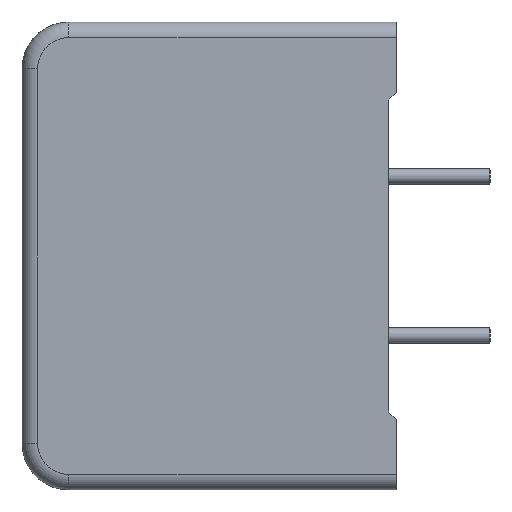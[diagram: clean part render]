
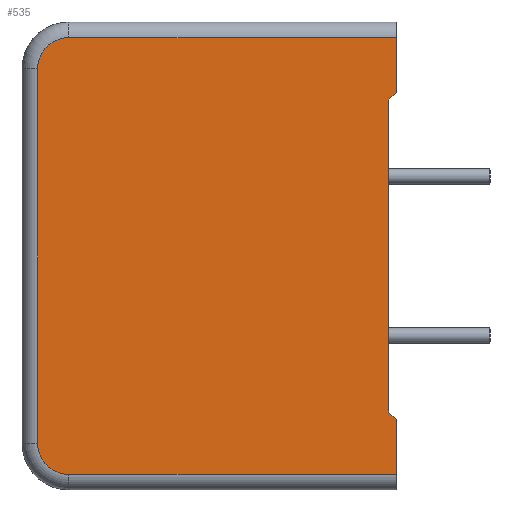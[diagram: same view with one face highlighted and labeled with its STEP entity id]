
A CAD part, left-side view. The second image highlights one B-rep face of the part: STEP entity #535.
In plain terms, the highlighted planar face has unit normal (-1, 0, 0).
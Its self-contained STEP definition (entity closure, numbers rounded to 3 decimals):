
#182 = CARTESIAN_POINT ( 'NONE',  ( -21., 0.5, 10. ) ) ;
#211 = CARTESIAN_POINT ( 'NONE',  ( -21., 0.5, -10. ) ) ;
#246 = VECTOR ( 'NONE', #1833, 1000. ) ;
#249 = CARTESIAN_POINT ( 'NONE',  ( -21., 0., -14. ) ) ;
#377 = DIRECTION ( 'NONE',  ( -1., 0., 0. ) ) ;
#535 = ADVANCED_FACE ( 'NONE', ( #595 ), #3729, .F. ) ;
#595 = FACE_OUTER_BOUND ( 'NONE', #1724, .T. ) ;
#621 = CARTESIAN_POINT ( 'NONE',  ( -21., 21., -12. ) ) ;
#686 = DIRECTION ( 'NONE',  ( 0., 0.707, 0.707 ) ) ;
#844 = ORIENTED_EDGE ( 'NONE', *, *, #2936, .T. ) ;
#894 = VERTEX_POINT ( 'NONE', #4404 ) ;
#909 = AXIS2_PLACEMENT_3D ( 'NONE', #2702, #377, #3034 ) ;
#1093 = DIRECTION ( 'NONE',  ( 0., 0., -1. ) ) ;
#1137 = LINE ( 'NONE', #2366, #4452 ) ;
#1328 = LINE ( 'NONE', #4065, #246 ) ;
#1472 = CARTESIAN_POINT ( 'NONE',  ( -21., 0.5, -10. ) ) ;
#1569 = CARTESIAN_POINT ( 'NONE',  ( -21., 23., -12. ) ) ;
#1659 = CIRCLE ( 'NONE', #4480, 2. ) ;
#1696 = LINE ( 'NONE', #3417, #2783 ) ;
#1706 = CARTESIAN_POINT ( 'NONE',  ( -21., 24., 14. ) ) ;
#1711 = VERTEX_POINT ( 'NONE', #3883 ) ;
#1724 = EDGE_LOOP ( 'NONE', ( #2531, #2643, #3617, #3756, #3861, #4034, #844, #2041, #2082, #2175 ) ) ;
#1833 = DIRECTION ( 'NONE',  ( 0., 0., 1. ) ) ;
#1981 = VECTOR ( 'NONE', #3057, 1000. ) ;
#2036 = LINE ( 'NONE', #211, #2852 ) ;
#2041 = ORIENTED_EDGE ( 'NONE', *, *, #2712, .T. ) ;
#2076 = DIRECTION ( 'NONE',  ( 0., 0., 1. ) ) ;
#2082 = ORIENTED_EDGE ( 'NONE', *, *, #2467, .T. ) ;
#2175 = ORIENTED_EDGE ( 'NONE', *, *, #2228, .T. ) ;
#2201 = CARTESIAN_POINT ( 'NONE',  ( -21., 23., -12. ) ) ;
#2218 = VERTEX_POINT ( 'NONE', #3119 ) ;
#2228 = EDGE_CURVE ( 'NONE', #894, #4160, #1696, .T. ) ;
#2366 = CARTESIAN_POINT ( 'NONE',  ( -21., 0., -15. ) ) ;
#2467 = EDGE_CURVE ( 'NONE', #2812, #894, #1659, .T. ) ;
#2470 = DIRECTION ( 'NONE',  ( 0., -0.707, 0.707 ) ) ;
#2480 = LINE ( 'NONE', #2201, #4284 ) ;
#2505 = CARTESIAN_POINT ( 'NONE',  ( -21., 0., 14. ) ) ;
#2531 = ORIENTED_EDGE ( 'NONE', *, *, #3069, .T. ) ;
#2561 = DIRECTION ( 'NONE',  ( 0., 0., -1. ) ) ;
#2578 = VECTOR ( 'NONE', #2076, 1000. ) ;
#2611 = VERTEX_POINT ( 'NONE', #182 ) ;
#2643 = ORIENTED_EDGE ( 'NONE', *, *, #3928, .T. ) ;
#2702 = CARTESIAN_POINT ( 'NONE',  ( -21., 21., 12. ) ) ;
#2710 = CARTESIAN_POINT ( 'NONE',  ( -21., 0., 10.5 ) ) ;
#2712 = EDGE_CURVE ( 'NONE', #1711, #2812, #2480, .T. ) ;
#2733 = DIRECTION ( 'NONE',  ( 0., 0., 1. ) ) ;
#2783 = VECTOR ( 'NONE', #3717, 1000. ) ;
#2812 = VERTEX_POINT ( 'NONE', #1569 ) ;
#2852 = VECTOR ( 'NONE', #686, 1000. ) ;
#2936 = EDGE_CURVE ( 'NONE', #3793, #1711, #3880, .T. ) ;
#3007 = LINE ( 'NONE', #1706, #1981 ) ;
#3034 = DIRECTION ( 'NONE',  ( 0., 0., -1. ) ) ;
#3057 = DIRECTION ( 'NONE',  ( 0., 1., 0. ) ) ;
#3069 = EDGE_CURVE ( 'NONE', #4160, #2218, #1137, .T. ) ;
#3119 = CARTESIAN_POINT ( 'NONE',  ( -21., 0., -10.5 ) ) ;
#3134 = EDGE_CURVE ( 'NONE', #3675, #3793, #3007, .T. ) ;
#3173 = DIRECTION ( 'NONE',  ( -1., 0., 0. ) ) ;
#3183 = CARTESIAN_POINT ( 'NONE',  ( -21., 21., 14. ) ) ;
#3244 = VECTOR ( 'NONE', #2470, 1000. ) ;
#3327 = LINE ( 'NONE', #3425, #3244 ) ;
#3335 = EDGE_CURVE ( 'NONE', #4482, #3675, #3418, .T. ) ;
#3417 = CARTESIAN_POINT ( 'NONE',  ( -21., 24., -14. ) ) ;
#3418 = LINE ( 'NONE', #4259, #2578 ) ;
#3425 = CARTESIAN_POINT ( 'NONE',  ( -21., 0., 10.5 ) ) ;
#3499 = DIRECTION ( 'NONE',  ( 0., 0., -1. ) ) ;
#3511 = DIRECTION ( 'NONE',  ( 1., 0., 0. ) ) ;
#3529 = EDGE_CURVE ( 'NONE', #2611, #4482, #3327, .T. ) ;
#3617 = ORIENTED_EDGE ( 'NONE', *, *, #3733, .T. ) ;
#3653 = VERTEX_POINT ( 'NONE', #1472 ) ;
#3675 = VERTEX_POINT ( 'NONE', #2505 ) ;
#3717 = DIRECTION ( 'NONE',  ( 0., -1., 0. ) ) ;
#3729 = PLANE ( 'NONE',  #4159 ) ;
#3733 = EDGE_CURVE ( 'NONE', #3653, #2611, #1328, .T. ) ;
#3736 = CARTESIAN_POINT ( 'NONE',  ( -21., 24., -15. ) ) ;
#3756 = ORIENTED_EDGE ( 'NONE', *, *, #3529, .T. ) ;
#3793 = VERTEX_POINT ( 'NONE', #3183 ) ;
#3861 = ORIENTED_EDGE ( 'NONE', *, *, #3335, .T. ) ;
#3880 = CIRCLE ( 'NONE', #909, 2. ) ;
#3883 = CARTESIAN_POINT ( 'NONE',  ( -21., 23., 12. ) ) ;
#3928 = EDGE_CURVE ( 'NONE', #2218, #3653, #2036, .T. ) ;
#4034 = ORIENTED_EDGE ( 'NONE', *, *, #3134, .T. ) ;
#4065 = CARTESIAN_POINT ( 'NONE',  ( -21., 0.5, 10. ) ) ;
#4159 = AXIS2_PLACEMENT_3D ( 'NONE', #3736, #3511, #3499 ) ;
#4160 = VERTEX_POINT ( 'NONE', #249 ) ;
#4259 = CARTESIAN_POINT ( 'NONE',  ( -21., 0., -15. ) ) ;
#4284 = VECTOR ( 'NONE', #2561, 1000. ) ;
#4404 = CARTESIAN_POINT ( 'NONE',  ( -21., 21., -14. ) ) ;
#4452 = VECTOR ( 'NONE', #2733, 1000. ) ;
#4480 = AXIS2_PLACEMENT_3D ( 'NONE', #621, #3173, #1093 ) ;
#4482 = VERTEX_POINT ( 'NONE', #2710 ) ;
